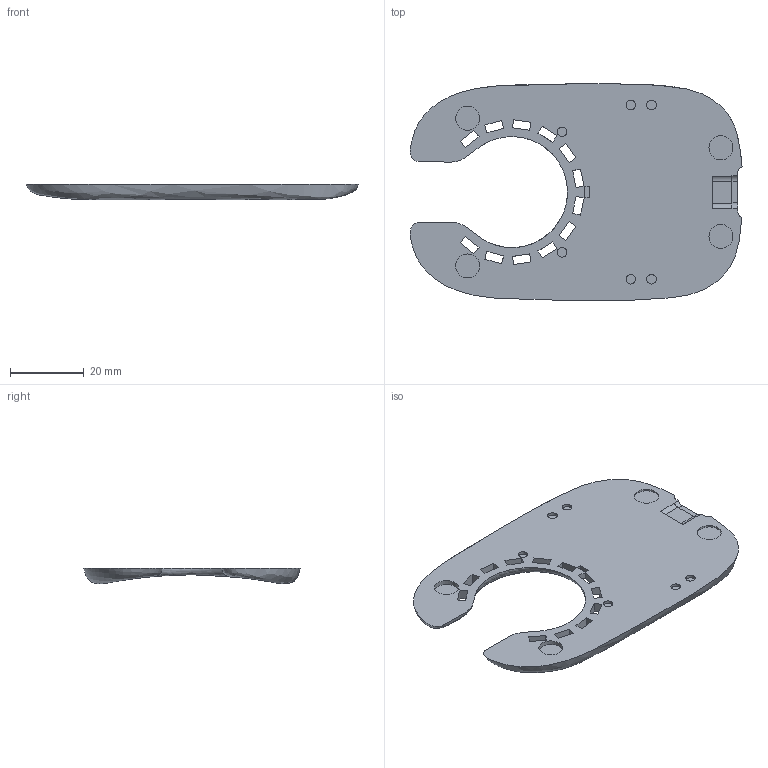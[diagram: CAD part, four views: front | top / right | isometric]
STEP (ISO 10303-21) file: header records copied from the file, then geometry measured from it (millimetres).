
FILE_DESCRIPTION(('Open CASCADE Model'),'2;1');
FILE_NAME('Open CASCADE Shape Model','2026-10-12T02:20:37',('Author'),( 'Open CASCADE'),'Open CASCADE STEP processor 8.0','build123d', 'Unknown');
FILE_SCHEMA(('AUTOMOTIVE_DESIGN { 1 0 10303 214 1 1 1 1 }'));
Length unit declared in the file: millimetre
Products named in the file (1): SOLID
Bounding box: 89.91 x 58.58 x 4.18 mm (x, y, z)
Volume: 10156.4 mm3; surface area: 8796.7 mm2
Topology: 1 solids, 1 shells, 86 faces, 222 edges, 148 vertices
Faces by surface type: plane 69, cylinder 16, bspline 1
Full cylindrical faces by diameter (mm): 2.6 x6, 6.5 x4
Entity records: 21508 total; most frequent: CARTESIAN_POINT 17483, DIRECTION 571, ORIENTED_EDGE 442, PCURVE 442, DEFINITIONAL_REPRESENTATION 442, LINE 317, VECTOR 317, B_SPLINE_CURVE_WITH_KNOTS 286
